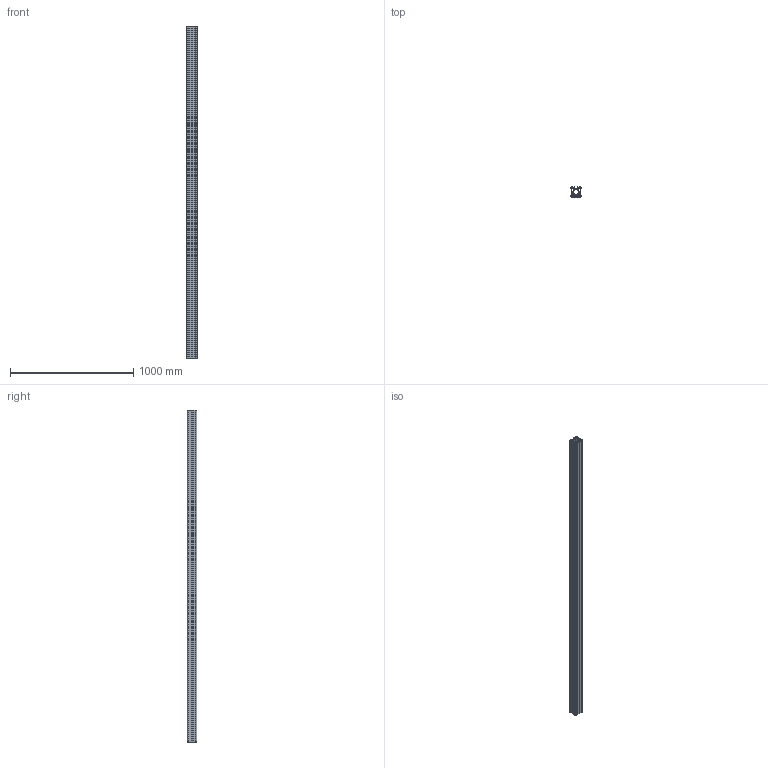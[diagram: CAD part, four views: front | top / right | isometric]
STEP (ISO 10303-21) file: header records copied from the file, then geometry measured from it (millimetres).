
FILE_DESCRIPTION (( 'STEP AP203' ), '1' );
FILE_NAME ('_-_MLF 4 2698 mm lang.step', '2005-09-01T12:46:38', ( ' ' ), ( ' ' ), 'SwSTEP 2.0', 'SolidWorks 2005187', '' );
FILE_SCHEMA (( 'CONFIG_CONTROL_DESIGN' ));
Length unit declared in the file: millimetre
Products named in the file (1): _-_MLF 4  2698 mm lang
Bounding box: 87.6 x 80 x 2698 mm (x, y, z)
Volume: 6216537.4 mm3; surface area: 3332998.6 mm2
Topology: 1 solids, 1 shells, 248 faces, 762 edges, 500 vertices
Faces by surface type: plane 174, cylinder 74
Entity records: 8575 total; most frequent: ORIENTED_EDGE 1524, CARTESIAN_POINT 1511, DIRECTION 1408, EDGE_CURVE 762, VECTOR 614, LINE 614, VERTEX_POINT 500, AXIS2_PLACEMENT_3D 397
